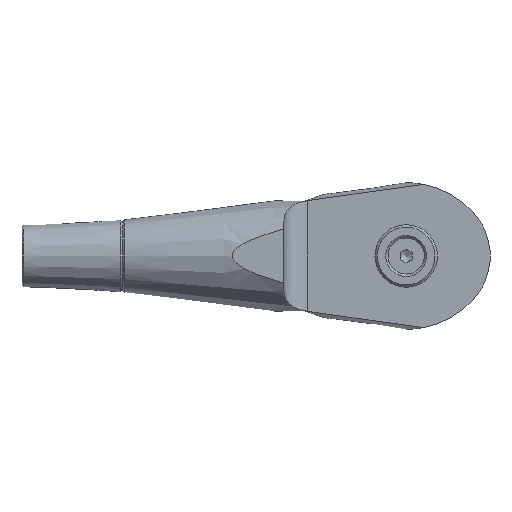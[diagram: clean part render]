
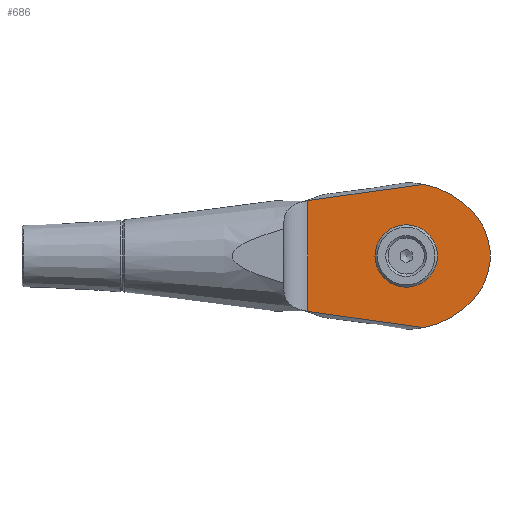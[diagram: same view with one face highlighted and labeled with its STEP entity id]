
A CAD part, front view. The second image highlights one B-rep face of the part: STEP entity #686.
In plain terms, the highlighted planar face has unit normal (0, -1, 0).
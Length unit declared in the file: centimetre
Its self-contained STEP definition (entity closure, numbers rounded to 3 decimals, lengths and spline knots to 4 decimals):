
#20=LINE('',#1197,#40);
#40=VECTOR('',#890,2.3063);
#65=(
BOUNDED_CURVE()
B_SPLINE_CURVE(2,(#1058,#1059,#1060),.UNSPECIFIED.,.F.,.F.)
B_SPLINE_CURVE_WITH_KNOTS((3,3),(0.,2.5954),.UNSPECIFIED.)
CURVE()
GEOMETRIC_REPRESENTATION_ITEM()
RATIONAL_B_SPLINE_CURVE((1.,1.011,1.007))
REPRESENTATION_ITEM('')
);
#69=(
BOUNDED_CURVE()
B_SPLINE_CURVE(2,(#1152,#1153,#1154),.UNSPECIFIED.,.F.,.F.)
B_SPLINE_CURVE_WITH_KNOTS((3,3),(1.2416,3.837),
 .UNSPECIFIED.)
CURVE()
GEOMETRIC_REPRESENTATION_ITEM()
RATIONAL_B_SPLINE_CURVE((1.007,1.011,1.))
REPRESENTATION_ITEM('')
);
#96=PLANE('',#759);
#122=FACE_BOUND('',#216,.T.);
#157=FACE_OUTER_BOUND('',#215,.T.);
#215=EDGE_LOOP('',(#504,#505,#506,#507,#508,#509));
#216=EDGE_LOOP('',(#510));
#281=CIRCLE('',#748,0.55);
#283=CIRCLE('',#751,1.891);
#285=CIRCLE('',#754,1.891);
#287=CIRCLE('',#757,1.35);
#319=VERTEX_POINT('',#1042);
#320=VERTEX_POINT('',#1057);
#331=VERTEX_POINT('',#1140);
#332=VERTEX_POINT('',#1151);
#334=VERTEX_POINT('',#1177);
#336=VERTEX_POINT('',#1182);
#338=VERTEX_POINT('',#1188);
#382=EDGE_CURVE('',#319,#320,#65,.T.);
#394=EDGE_CURVE('',#331,#332,#69,.T.);
#399=EDGE_CURVE('',#334,#334,#281,.T.);
#401=EDGE_CURVE('',#331,#336,#283,.T.);
#404=EDGE_CURVE('',#338,#320,#285,.T.);
#407=EDGE_CURVE('',#336,#338,#287,.T.);
#409=EDGE_CURVE('',#319,#332,#20,.T.);
#504=ORIENTED_EDGE('',*,*,#401,.T.);
#505=ORIENTED_EDGE('',*,*,#407,.T.);
#506=ORIENTED_EDGE('',*,*,#404,.T.);
#507=ORIENTED_EDGE('',*,*,#382,.F.);
#508=ORIENTED_EDGE('',*,*,#409,.T.);
#509=ORIENTED_EDGE('',*,*,#394,.F.);
#510=ORIENTED_EDGE('',*,*,#399,.T.);
#686=ADVANCED_FACE('',(#157,#122),#96,.F.);
#748=AXIS2_PLACEMENT_3D('',#1178,#864,#865);
#751=AXIS2_PLACEMENT_3D('',#1183,#870,#871);
#754=AXIS2_PLACEMENT_3D('',#1189,#877,#878);
#757=AXIS2_PLACEMENT_3D('',#1194,#884,#885);
#759=AXIS2_PLACEMENT_3D('',#1196,#888,#889);
#864=DIRECTION('center_axis',(0.,1.,0.));
#865=DIRECTION('ref_axis',(-1.,0.,0.));
#870=DIRECTION('center_axis',(0.,-1.,0.));
#871=DIRECTION('ref_axis',(0.,0.,
1.));
#877=DIRECTION('center_axis',(0.,-1.,0.));
#878=DIRECTION('ref_axis',(-0.739,0.,-0.673));
#884=DIRECTION('center_axis',(0.,-1.,0.));
#885=DIRECTION('ref_axis',(-0.739,0.,0.673));
#888=DIRECTION('center_axis',(0.,1.,0.));
#889=DIRECTION('ref_axis',(-1.,0.,0.));
#890=DIRECTION('',(0.,0.,-1.));
#1042=CARTESIAN_POINT('',(-2.05,-0.5,1.1531));
#1057=CARTESIAN_POINT('',(0.3586,-0.5,1.4924));
#1058=CARTESIAN_POINT('Ctrl Pts',(-2.05,-0.5,1.1531));
#1059=CARTESIAN_POINT('Ctrl Pts',(-1.0002,-0.5,1.3038));
#1060=CARTESIAN_POINT('Ctrl Pts',(0.3586,-0.5,1.4924));
#1140=CARTESIAN_POINT('',(0.3586,-0.5,-1.4924));
#1151=CARTESIAN_POINT('',(-2.05,-0.5,-1.1531));
#1152=CARTESIAN_POINT('Ctrl Pts',(0.3586,-0.5,-1.4924));
#1153=CARTESIAN_POINT('Ctrl Pts',(-1.0002,-0.5,-1.3038));
#1154=CARTESIAN_POINT('Ctrl Pts',(-2.05,-0.5,-1.1531));
#1177=CARTESIAN_POINT('',(0.55,-0.5,0.));
#1178=CARTESIAN_POINT('Origin',(0.,-0.5,0.));
#1182=CARTESIAN_POINT('',(1.3982,-0.5,-0.9089));
#1183=CARTESIAN_POINT('Origin',(0.,-0.5,0.3642));
#1188=CARTESIAN_POINT('',(1.3982,-0.5,0.9089));
#1189=CARTESIAN_POINT('Origin',(0.,-0.5,-0.3642));
#1194=CARTESIAN_POINT('Origin',(0.4,-0.5,0.));
#1196=CARTESIAN_POINT('Origin',(1.75,-0.5,0.));
#1197=CARTESIAN_POINT('',(-2.05,-0.5,0.));
